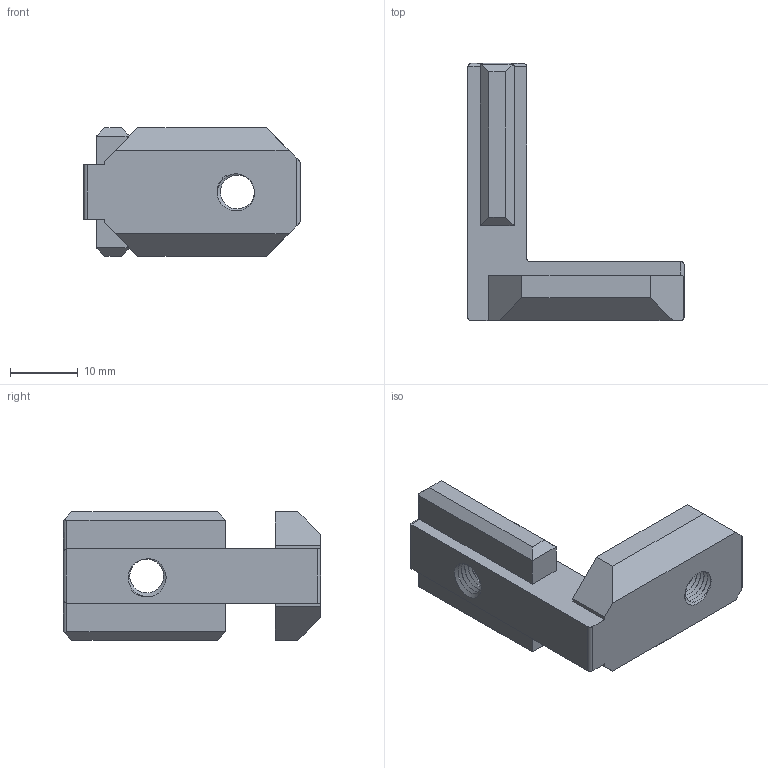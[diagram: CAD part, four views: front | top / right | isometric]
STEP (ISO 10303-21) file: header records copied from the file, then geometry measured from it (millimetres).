
FILE_DESCRIPTION (( 'STEP AP203' ), '1' );
FILE_NAME ('80-CE-IEZ4040-8.STEP', '2015-07-09T08:28:59', ( '' ), ( '' ), 'SwSTEP 2.0', 'SolidWorks 2013', '' );
FILE_SCHEMA (( 'CONFIG_CONTROL_DESIGN' ));
Length unit declared in the file: millimetre
Products named in the file (1): 80-CE-IEZ4040-8
Bounding box: 32 x 38 x 19 mm (x, y, z)
Volume: 6640.8 mm3; surface area: 3695.1 mm2
Topology: 1 solids, 1 shells, 114 faces, 316 edges, 204 vertices
Faces by surface type: cylinder 74, plane 36, bspline 4
Entity records: 6077 total; most frequent: CARTESIAN_POINT 3513, ORIENTED_EDGE 632, DIRECTION 404, EDGE_CURVE 316, VERTEX_POINT 204, LINE 166, VECTOR 166, AXIS2_PLACEMENT_3D 119
